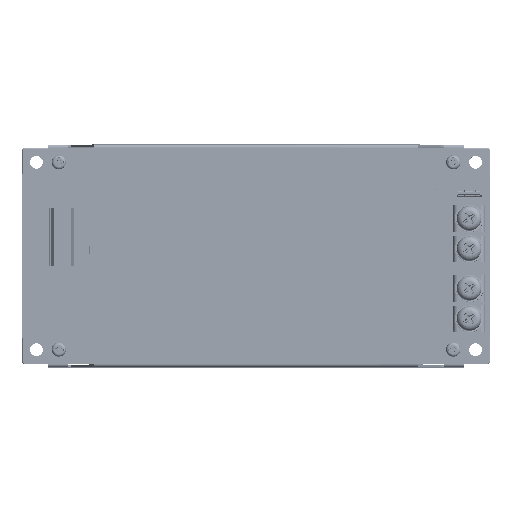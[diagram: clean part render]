
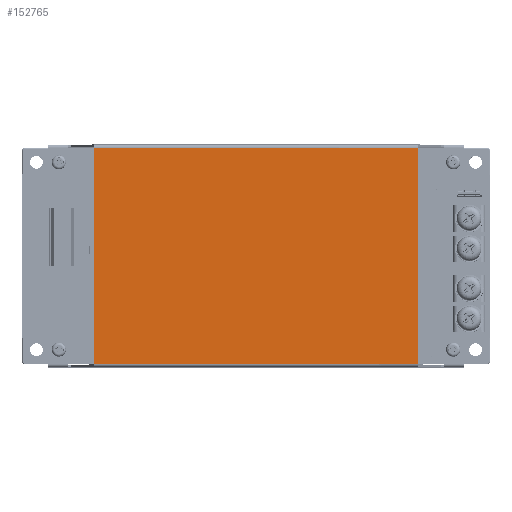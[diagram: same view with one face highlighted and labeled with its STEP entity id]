
A CAD part, top view. The second image highlights one B-rep face of the part: STEP entity #152765.
In plain terms, the highlighted planar face has unit normal (0, 0, 1).
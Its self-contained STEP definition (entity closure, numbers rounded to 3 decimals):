
#8246 = DIRECTION ( 'NONE',  ( 0., 0., 1. ) ) ;
#8352 = DIRECTION ( 'NONE',  ( 1., 0., 0. ) ) ;
#8624 = CARTESIAN_POINT ( 'NONE',  ( -69.423, -22.875, 21.8 ) ) ;
#26913 = LINE ( 'NONE', #121369, #97572 ) ;
#38970 = EDGE_CURVE ( 'NONE', #95211, #87499, #60302, .T. ) ;
#40865 = LINE ( 'NONE', #150093, #88758 ) ;
#44178 = DIRECTION ( 'NONE',  ( 0., -1., 0. ) ) ;
#47821 = CARTESIAN_POINT ( 'NONE',  ( 44.866, 53.285, 21.8 ) ) ;
#57207 = ORIENTED_EDGE ( 'NONE', *, *, #91954, .T. ) ;
#59129 = ORIENTED_EDGE ( 'NONE', *, *, #62671, .T. ) ;
#60162 = VERTEX_POINT ( 'NONE', #85491 ) ;
#60302 = LINE ( 'NONE', #47821, #101180 ) ;
#62671 = EDGE_CURVE ( 'NONE', #107236, #60162, #151952, .T. ) ;
#63310 = ORIENTED_EDGE ( 'NONE', *, *, #153668, .F. ) ;
#64953 = AXIS2_PLACEMENT_3D ( 'NONE', #151099, #8246, #44178 ) ;
#70771 = CARTESIAN_POINT ( 'NONE',  ( -69.423, 53.285, 21.8 ) ) ;
#78318 = DIRECTION ( 'NONE',  ( 0., 1., 0. ) ) ;
#85491 = CARTESIAN_POINT ( 'NONE',  ( 44.777, -22.875, 21.8 ) ) ;
#87499 = VERTEX_POINT ( 'NONE', #70771 ) ;
#88758 = VECTOR ( 'NONE', #78318, 1000. ) ;
#91954 = EDGE_CURVE ( 'NONE', #60162, #95211, #40865, .T. ) ;
#95211 = VERTEX_POINT ( 'NONE', #99142 ) ;
#97572 = VECTOR ( 'NONE', #123683, 1000. ) ;
#97816 = EDGE_LOOP ( 'NONE', ( #57207, #125904, #63310, #59129 ) ) ;
#99142 = CARTESIAN_POINT ( 'NONE',  ( 44.777, 53.285, 21.8 ) ) ;
#101180 = VECTOR ( 'NONE', #108684, 1000. ) ;
#101937 = PLANE ( 'NONE',  #64953 ) ;
#103483 = FACE_OUTER_BOUND ( 'NONE', #97816, .T. ) ;
#107236 = VERTEX_POINT ( 'NONE', #8624 ) ;
#108684 = DIRECTION ( 'NONE',  ( -1., 0., 0. ) ) ;
#121369 = CARTESIAN_POINT ( 'NONE',  ( -69.423, -23.075, 21.8 ) ) ;
#123683 = DIRECTION ( 'NONE',  ( 0., 1., 0. ) ) ;
#125904 = ORIENTED_EDGE ( 'NONE', *, *, #38970, .T. ) ;
#130076 = CARTESIAN_POINT ( 'NONE',  ( -69.513, -22.875, 21.8 ) ) ;
#149349 = VECTOR ( 'NONE', #8352, 1000. ) ;
#150093 = CARTESIAN_POINT ( 'NONE',  ( 44.777, -23.075, 21.8 ) ) ;
#151099 = CARTESIAN_POINT ( 'NONE',  ( -69.423, -23.075, 21.8 ) ) ;
#151952 = LINE ( 'NONE', #130076, #149349 ) ;
#152765 = ADVANCED_FACE ( 'NONE', ( #103483 ), #101937, .T. ) ;
#153668 = EDGE_CURVE ( 'NONE', #107236, #87499, #26913, .T. ) ;
